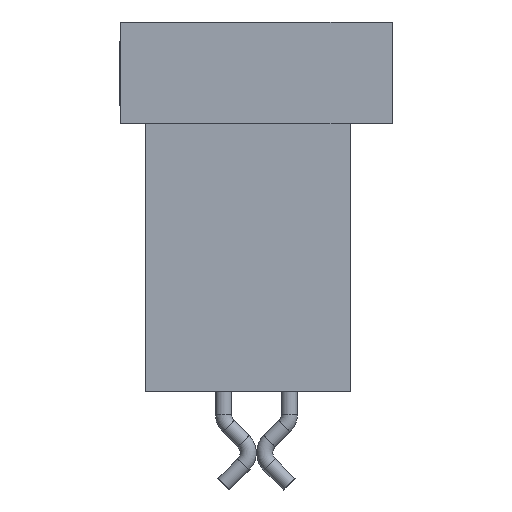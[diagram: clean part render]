
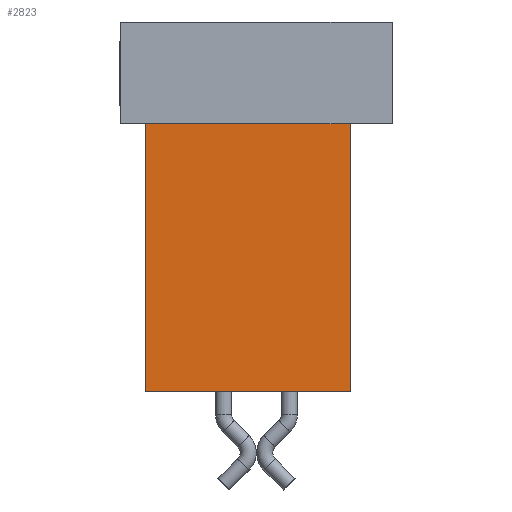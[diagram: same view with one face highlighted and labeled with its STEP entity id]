
A CAD part, left-side view. The second image highlights one B-rep face of the part: STEP entity #2823.
In plain terms, the highlighted planar face has unit normal (-1, 0, 0).
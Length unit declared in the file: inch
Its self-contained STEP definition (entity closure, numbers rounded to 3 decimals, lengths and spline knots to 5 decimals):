
#2823 = ADVANCED_FACE ( 'NONE', ( #44789 ), #12225, .T. ) ;
#3491 = EDGE_CURVE ( 'NONE', #33811, #4382, #35362, .T. ) ;
#4083 = VERTEX_POINT ( 'NONE', #39503 ) ;
#4382 = VERTEX_POINT ( 'NONE', #37457 ) ;
#4846 = EDGE_CURVE ( 'NONE', #6635, #4083, #9109, .T. ) ;
#4867 = VECTOR ( 'NONE', #17562, 39.37008 ) ;
#5593 = DIRECTION ( 'NONE',  ( 0., 0., 1. ) ) ;
#6635 = VERTEX_POINT ( 'NONE', #41544 ) ;
#9109 = LINE ( 'NONE', #38104, #35250 ) ;
#10638 = CARTESIAN_POINT ( 'NONE',  ( -0.325, 0.0675, -0.225 ) ) ;
#11662 = EDGE_LOOP ( 'NONE', ( #45562, #16134, #46642, #15903 ) ) ;
#12225 = PLANE ( 'NONE',  #36895 ) ;
#15903 = ORIENTED_EDGE ( 'NONE', *, *, #4846, .T. ) ;
#16134 = ORIENTED_EDGE ( 'NONE', *, *, #3491, .F. ) ;
#16682 = EDGE_CURVE ( 'NONE', #33811, #6635, #46539, .T. ) ;
#17562 = DIRECTION ( 'NONE',  ( 0., 0., 1. ) ) ;
#20414 = CARTESIAN_POINT ( 'NONE',  ( -0.325, 0.0675, -0.062 ) ) ;
#20515 = CARTESIAN_POINT ( 'NONE',  ( -0.325, 0.0675, -0.225 ) ) ;
#23987 = DIRECTION ( 'NONE',  ( 0., -1., 0. ) ) ;
#24326 = DIRECTION ( 'NONE',  ( -1., 0., 0. ) ) ;
#24611 = VECTOR ( 'NONE', #25161, 39.37008 ) ;
#25161 = DIRECTION ( 'NONE',  ( 0., -1., 0. ) ) ;
#33811 = VERTEX_POINT ( 'NONE', #35942 ) ;
#35250 = VECTOR ( 'NONE', #5593, 39.37008 ) ;
#35362 = LINE ( 'NONE', #46757, #4867 ) ;
#35942 = CARTESIAN_POINT ( 'NONE',  ( -0.325, 0.0675, -0.225 ) ) ;
#36895 = AXIS2_PLACEMENT_3D ( 'NONE', #20515, #24326, #39051 ) ;
#37152 = VECTOR ( 'NONE', #23987, 39.37008 ) ;
#37457 = CARTESIAN_POINT ( 'NONE',  ( -0.325, 0.0675, -0.062 ) ) ;
#38104 = CARTESIAN_POINT ( 'NONE',  ( -0.325, -0.0575, -0.225 ) ) ;
#38956 = EDGE_CURVE ( 'NONE', #4382, #4083, #42529, .T. ) ;
#39051 = DIRECTION ( 'NONE',  ( 0., -1., 0. ) ) ;
#39503 = CARTESIAN_POINT ( 'NONE',  ( -0.325, -0.0575, -0.062 ) ) ;
#41544 = CARTESIAN_POINT ( 'NONE',  ( -0.325, -0.0575, -0.225 ) ) ;
#42529 = LINE ( 'NONE', #20414, #37152 ) ;
#44789 = FACE_OUTER_BOUND ( 'NONE', #11662, .T. ) ;
#45562 = ORIENTED_EDGE ( 'NONE', *, *, #38956, .F. ) ;
#46539 = LINE ( 'NONE', #10638, #24611 ) ;
#46642 = ORIENTED_EDGE ( 'NONE', *, *, #16682, .T. ) ;
#46757 = CARTESIAN_POINT ( 'NONE',  ( -0.325, 0.0675, -0.225 ) ) ;
